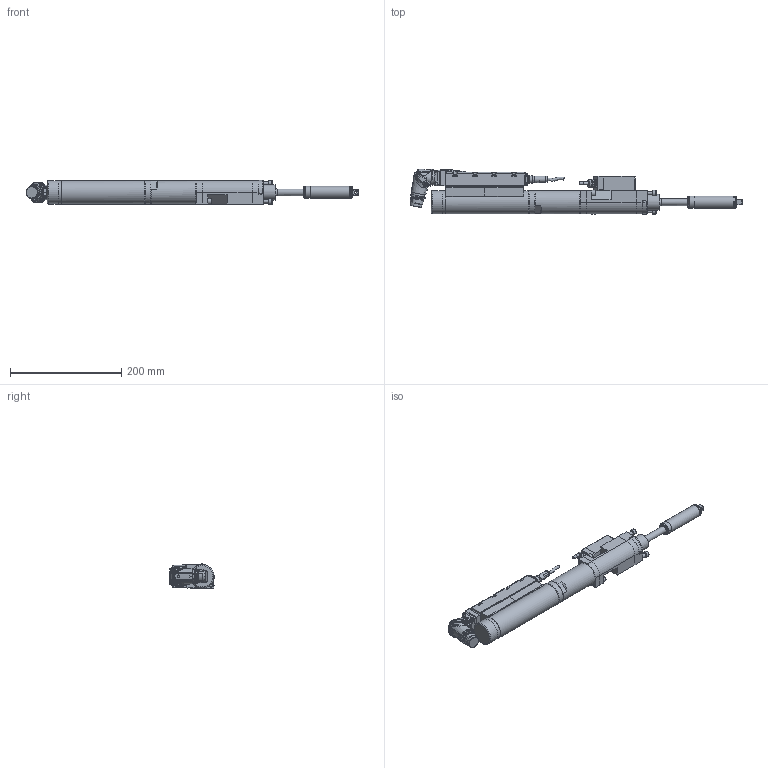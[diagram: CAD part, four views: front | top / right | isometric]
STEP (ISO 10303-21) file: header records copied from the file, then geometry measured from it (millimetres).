
FILE_DESCRIPTION (( 'STEP AP214' ), '1' );
FILE_NAME ('70082442_ESX103DAX40AZX150.STEP', '2016-11-14T10:38:10', ( 'admin' ), ( '' ), 'SwSTEP 2.0', 'SolidWorks 2014', '' );
FILE_SCHEMA (( 'AUTOMOTIVE_DESIGN' ));
Length unit declared in the file: millimetre
Products named in the file (11): 70082442_ESX103DAX40AZX150; 7002230_3; 70082370; 70082340; 70082300_ESX103_Standard_Winkel; 70082293_2; 70057493_Standard_winkel; 70057493_4; 70057493_3; 70057493_2; 70082300
Assembly tree (10 placements, depth 4):
  70082442_ESX103DAX40AZX150
    70082300_ESX103_Standard_Winkel
      70082300
      70057493_Standard_winkel
        70057493_2
        70057493_3
        70057493_4
      70082293_2
    70082340
    70082370
    7002230_3
Bounding box: 597.96 x 82.03 x 43.85 mm (x, y, z)
Volume: 933081 mm3; surface area: 138378 mm2
Topology: 12 solids, 12 shells, 2219 faces, 5739 edges, 3700 vertices
Faces by surface type: plane 1056, cylinder 579, bspline 263, cone 254, torus 62, sphere 5
Full cylindrical faces by diameter (mm): 0.5 x7, 0.57 x14, 2 x3, 2.5 x4, 3 x6, 3.5 x1, 4.2 x1, 4.7 x1, 4.9 x3, 5 x8, 5.5 x12, 6 x8, 8.459 x2, 10 x6, 11.08 x1, 12.1 x1, 12.3 x1, 12.5 x1, 14 x2, 14.5 x2, 16 x2, 17.4 x1, 18 x1, 20 x1, 20.2 x1, 21 x1, 21.15 x1, 21.5 x1, 21.7 x1, 22 x3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
Entity records: 79896 total; most frequent: CARTESIAN_POINT 27651, ORIENTED_EDGE 10750, DIRECTION 9192, EDGE_CURVE 5375, VERTEX_POINT 3595, AXIS2_PLACEMENT_3D 3389, EDGE_LOOP 2648, VECTOR 2414
